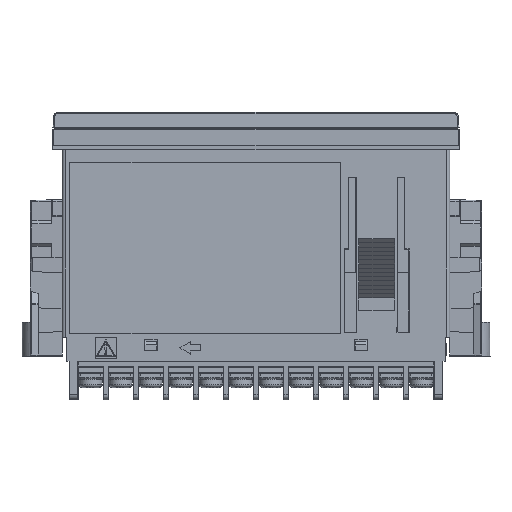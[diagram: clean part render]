
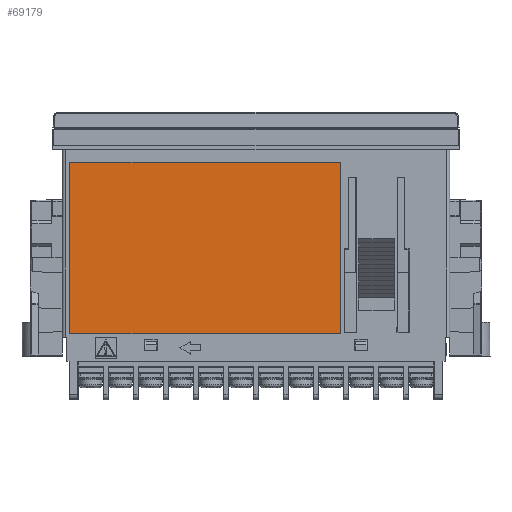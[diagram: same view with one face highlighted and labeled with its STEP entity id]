
A CAD part, left-side view. The second image highlights one B-rep face of the part: STEP entity #69179.
In plain terms, the highlighted planar face has unit normal (-1, 0, 0).
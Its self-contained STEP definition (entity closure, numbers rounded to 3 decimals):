
#978 = DIRECTION ( 'NONE',  ( 0., 0., 1. ) ) ;
#2243 = VECTOR ( 'NONE', #212742, 1000. ) ;
#5972 = ORIENTED_EDGE ( 'NONE', *, *, #97377, .T. ) ;
#23009 = VERTEX_POINT ( 'NONE', #44102 ) ;
#25173 = CARTESIAN_POINT ( 'NONE',  ( -22.3, -20., -48.4 ) ) ;
#28262 = ORIENTED_EDGE ( 'NONE', *, *, #197981, .T. ) ;
#31792 = VERTEX_POINT ( 'NONE', #174085 ) ;
#32260 = LINE ( 'NONE', #220750, #221698 ) ;
#36800 = VECTOR ( 'NONE', #204563, 1000. ) ;
#43622 = DIRECTION ( 'NONE',  ( 0., 0., 1. ) ) ;
#44102 = CARTESIAN_POINT ( 'NONE',  ( -22.3, -20., -48.4 ) ) ;
#69179 = ADVANCED_FACE ( 'NONE', ( #204604 ), #116657, .T. ) ;
#76159 = CARTESIAN_POINT ( 'NONE',  ( -22.3, 44., -7.9 ) ) ;
#77062 = VERTEX_POINT ( 'NONE', #225308 ) ;
#79773 = LINE ( 'NONE', #76159, #36800 ) ;
#86821 = EDGE_LOOP ( 'NONE', ( #93227, #28262, #233106, #5972 ) ) ;
#93227 = ORIENTED_EDGE ( 'NONE', *, *, #175735, .T. ) ;
#97377 = EDGE_CURVE ( 'NONE', #108012, #77062, #203129, .T. ) ;
#108012 = VERTEX_POINT ( 'NONE', #155677 ) ;
#116657 = PLANE ( 'NONE',  #193294 ) ;
#135005 = DIRECTION ( 'NONE',  ( 0., -1., 0. ) ) ;
#153479 = DIRECTION ( 'NONE',  ( -1., 0., 0. ) ) ;
#155677 = CARTESIAN_POINT ( 'NONE',  ( -22.3, 44., -7.9 ) ) ;
#165833 = VECTOR ( 'NONE', #135005, 1000. ) ;
#174085 = CARTESIAN_POINT ( 'NONE',  ( -22.3, -20., -7.9 ) ) ;
#175735 = EDGE_CURVE ( 'NONE', #77062, #23009, #226168, .T. ) ;
#193294 = AXIS2_PLACEMENT_3D ( 'NONE', #25173, #153479, #43622 ) ;
#194306 = CARTESIAN_POINT ( 'NONE',  ( -22.3, 44., -48.4 ) ) ;
#197981 = EDGE_CURVE ( 'NONE', #23009, #31792, #32260, .T. ) ;
#203129 = LINE ( 'NONE', #194306, #2243 ) ;
#204563 = DIRECTION ( 'NONE',  ( 0., 1., 0. ) ) ;
#204604 = FACE_OUTER_BOUND ( 'NONE', #86821, .T. ) ;
#207694 = EDGE_CURVE ( 'NONE', #31792, #108012, #79773, .T. ) ;
#212742 = DIRECTION ( 'NONE',  ( 0., 0., -1. ) ) ;
#220750 = CARTESIAN_POINT ( 'NONE',  ( -22.3, -20., -48.4 ) ) ;
#221698 = VECTOR ( 'NONE', #978, 1000. ) ;
#225308 = CARTESIAN_POINT ( 'NONE',  ( -22.3, 44., -48.4 ) ) ;
#226168 = LINE ( 'NONE', #226480, #165833 ) ;
#226480 = CARTESIAN_POINT ( 'NONE',  ( -22.3, 44., -48.4 ) ) ;
#233106 = ORIENTED_EDGE ( 'NONE', *, *, #207694, .T. ) ;
